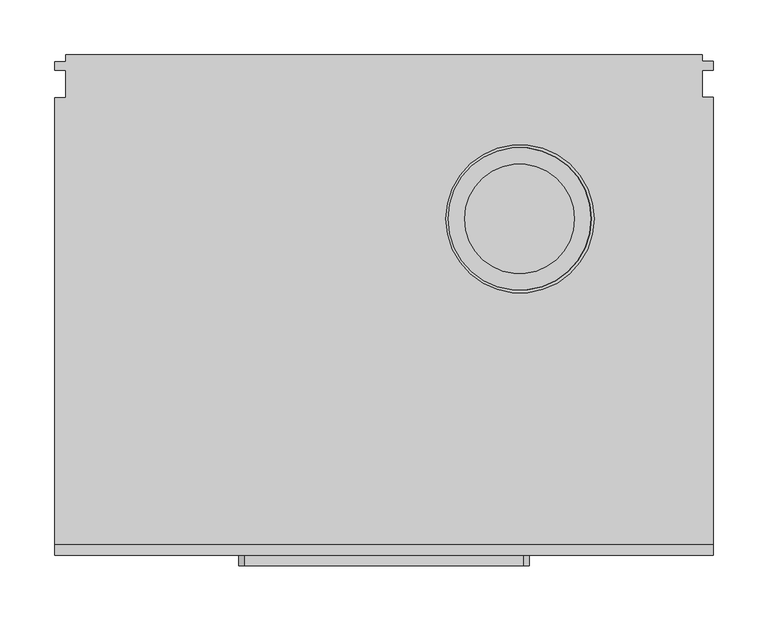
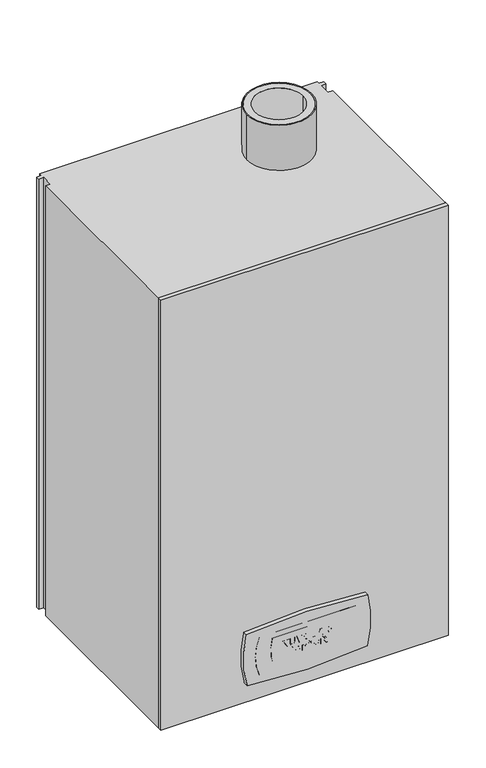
"""IFC4 building model written with IfcOpenShell, lengths in millimetres: proxy geometry, BAXI_ГазовыйКотел_Nuvola-3_Comfort_Fi : BAXI_Газовый котел_Nuvola-3_Comfort_240 Fi."""

from ifc_helpers import new_model, si_unit, point, frame, frame_2d, origin, origin_with_axes, place, context, project, spatial, polyline, circle_curve, trimmed, segment, composite_curve, outline, extrude, source, transform, mapped, element, save


def mechanical_equipment_10b0f234(model_context):
    return source(origin(), model_context, "Body", "SweptSolid", [
        extrude(outline(composite_curve([segment(trimmed(circle_curve(frame_2d((123.53125, -150.0)), 65.0), [point((58.53125, -150.0))], [point((188.53125, -150.0))], False, "CARTESIAN"), True, "CONTINUOUS"), segment(trimmed(circle_curve(frame_2d((123.53125, -150.0)), 65.0), [point((188.53125, -150.0))], [point((58.53125, -150.0))], False, "CARTESIAN"), True, "CONTINUOUS")], self_intersect=False), holes=[composite_curve([segment(trimmed(circle_curve(frame_2d((123.53125, -150.0)), 50.0), [point((73.53125, -150.0))], [point((173.53125, -150.0))], True, "CARTESIAN"), True, "CONTINUOUS"), segment(trimmed(circle_curve(frame_2d((123.53125, -150.0)), 50.0), [point((173.53125, -150.0))], [point((73.53125, -150.0))], True, "CARTESIAN"), True, "CONTINUOUS")], self_intersect=False)]), frame((0.0, 0.0, 950.0), z_axis=(0.0, 0.0, 1.0), x_axis=(1.0, 0.0, 0.0)), (0.0, 0.0, 1.0), 100.0),
        extrude(outline(composite_curve([segment(trimmed(circle_curve(frame_2d((124.0, -150.0)), 67.5), [point((56.5, -150.0))], [point((191.5, -150.0))], False, "CARTESIAN"), True, "CONTINUOUS"), segment(trimmed(circle_curve(frame_2d((124.0, -150.0)), 67.5), [point((191.5, -150.0))], [point((56.5, -150.0))], False, "CARTESIAN"), True, "CONTINUOUS")], self_intersect=False), holes=[composite_curve([segment(trimmed(circle_curve(frame_2d((124.0, -150.0)), 65.0), [point((59.0, -150.0))], [point((189.0, -150.0))], True, "CARTESIAN"), True, "CONTINUOUS"), segment(trimmed(circle_curve(frame_2d((124.0, -150.0)), 65.0), [point((189.0, -150.0))], [point((59.0, -150.0))], True, "CARTESIAN"), True, "CONTINUOUS")], self_intersect=False)]), frame((0.0, 0.0, 950.0), z_axis=(0.0, 0.0, 1.0), x_axis=(1.0, 0.0, 0.0)), (0.0, 0.0, 1.0), 100.0),
        extrude(outline(composite_curve([segment(trimmed(circle_curve(frame_2d((137.6, -150.0)), 10.0), [point((127.6, -150.0))], [point((147.6, -150.0))], False, "CARTESIAN"), True, "CONTINUOUS"), segment(trimmed(circle_curve(frame_2d((137.6, -150.0)), 10.0), [point((147.6, -150.0))], [point((127.6, -150.0))], False, "CARTESIAN"), True, "CONTINUOUS")], self_intersect=False)), origin_with_axes(), (0.0, 0.0, 1.0), 27.0),
        extrude(outline(composite_curve([segment(trimmed(circle_curve(frame_2d((237.6, -150.0)), 10.0), [point((227.6, -150.0))], [point((247.6, -150.0))], False, "CARTESIAN"), True, "CONTINUOUS"), segment(trimmed(circle_curve(frame_2d((237.6, -150.0)), 10.0), [point((247.6, -150.0))], [point((227.6, -150.0))], False, "CARTESIAN"), True, "CONTINUOUS")], self_intersect=False)), origin_with_axes(), (0.0, 0.0, 1.0), 27.0),
        extrude(outline(composite_curve([segment(trimmed(circle_curve(frame_2d((-62.4, -150.0)), 7.5), [point((-69.9, -150.0))], [point((-54.9, -150.0))], False, "CARTESIAN"), True, "CONTINUOUS"), segment(trimmed(circle_curve(frame_2d((-62.4, -150.0)), 7.5), [point((-54.9, -150.0))], [point((-69.9, -150.0))], False, "CARTESIAN"), True, "CONTINUOUS")], self_intersect=False)), origin_with_axes(), (0.0, 0.0, 1.0), 27.0),
        extrude(outline(composite_curve([segment(trimmed(circle_curve(frame_2d((-162.4, -150.0)), 7.5), [point((-169.9, -150.0))], [point((-154.9, -150.0))], False, "CARTESIAN"), True, "CONTINUOUS"), segment(trimmed(circle_curve(frame_2d((-162.4, -150.0)), 7.5), [point((-154.9, -150.0))], [point((-169.9, -150.0))], False, "CARTESIAN"), True, "CONTINUOUS")], self_intersect=False)), origin_with_axes(), (0.0, 0.0, 1.0), 27.0),
        extrude(outline(composite_curve([segment(trimmed(circle_curve(frame_2d((37.6, -150.0)), 10.0), [point((27.6, -150.0))], [point((47.6, -150.0))], False, "CARTESIAN"), True, "CONTINUOUS"), segment(trimmed(circle_curve(frame_2d((37.6, -150.0)), 10.0), [point((47.6, -150.0))], [point((27.6, -150.0))], False, "CARTESIAN"), True, "CONTINUOUS")], self_intersect=False)), origin_with_axes(), (0.0, 0.0, 1.0), 27.0),
        extrude(outline(polyline([(290.0, -0.5), (290.0, -6.3249142), (300.0, -6.3249142), (300.0, -14.3064522), (290.0, -14.3064522), (290.0, -38.999666), (300.0, -38.999666), (300.0, -446.5), (-300.0, -446.5), (-300.0, -39.3721844), (-290.0, -39.3721844), (-290.0, -14.3064522), (-300.0, -14.3064522), (-300.0, -6.9817422), (-290.0, -6.9817422), (-290.0, -0.5), (290.0, -0.5)])), origin_with_axes(), (0.0, 0.0, 1.0), 950.0),
        extrude(outline(composite_curve([segment(trimmed(circle_curve(frame_2d((1114.655629, 0.0)), 1078.3671711), [point((43.6229777, -125.5580169))], [point((43.6229777, 125.5580169))], False, "CARTESIAN"), True, "CONTINUOUS"), segment(trimmed(circle_curve(frame_2d((102.7699381, -106.3403159)), 239.322376), [point((43.6229777, 125.5580169))], [point((156.2143124, 126.9382698))], False, "CARTESIAN"), True, "CONTINUOUS"), segment(trimmed(circle_curve(frame_2d((-914.655629, 0.0)), 1078.3671711), [point((156.2143124, 126.9382698))], [point((156.2143124, -126.9382698))], False, "CARTESIAN"), True, "CONTINUOUS"), segment(trimmed(circle_curve(frame_2d((102.7699381, 106.3403159)), 239.322376), [point((156.2143124, -126.9382698))], [point((43.6229777, -125.5580169))], False, "CARTESIAN"), True, "CONTINUOUS")], self_intersect=False)), frame((0.0, -466.0, 0.0), z_axis=(0.0, 1.0, 0.0), x_axis=(0.0, 0.0, 1.0)), (0.0, 0.0, 1.0), 19.5),
        extrude(outline(polyline([(100.952917, -51.0317909), (100.952917, -48.1167641), (111.1023725, -48.1167641), (100.952917, -41.7932813), (100.952917, -38.6429268), (116.256808, -38.6429268), (116.256808, -41.5579536), (105.9555282, -41.5579536), (116.256808, -47.9763266), (116.256808, -51.0317909), (100.952917, -51.0317909)])), frame((0.0, -466.0, 0.0), z_axis=(0.0, 1.0, 0.0), x_axis=(0.0, 0.0, 1.0)), (0.0, 0.0, 1.0), 5.0),
        extrude(outline(polyline([(116.256808, -35.7278999), (108.1038423, -35.7278999), (104.224731, -35.4204557), (102.5280943, -34.5398746), (101.214814, -32.7217785), (100.7099981, -29.3474831), (101.1730623, -26.3584418), (102.4199195, -24.5308566), (104.3385993, -23.5933415), (108.2290974, -23.3390358), (116.256808, -23.3390358), (116.256808, -26.2540626), (107.8229673, -26.2540626), (103.9172868, -27.276979), (103.3821061, -29.4385776), (103.9495495, -31.6590083), (105.4507124, -32.687618), (108.0013609, -32.8128731), (116.256808, -32.8128731), (116.256808, -35.7278999)])), frame((0.0, -466.0, 0.0), z_axis=(0.0, 1.0, 0.0), x_axis=(0.0, 0.0, 1.0)), (0.0, 0.0, 1.0), 5.0),
        extrude(outline(polyline([(100.952917, -16.7232912), (100.952917, -13.4666597), (116.256808, -8.0351448), (116.256808, -11.0982003), (104.8396195, -14.9583336), (116.256808, -18.80708), (116.256808, -21.8815223), (100.952917, -16.7232912)])), frame((0.0, -466.0, 0.0), z_axis=(0.0, 1.0, 0.0), x_axis=(0.0, 0.0, 1.0)), (0.0, 0.0, 1.0), 5.0),
        extrude(outline(polyline([(108.5099723, -6.8205502), (102.7880934, -4.8430385), (100.7099981, 0.4859949), (102.7975825, 5.7770723), (108.5858845, 7.754584), (114.4064492, 5.7618899), (116.4997269, 0.4480389), (115.8962253, -2.7934103), (114.5203174, -4.7348637), (112.4270397, -6.1335452), (108.5099723, -6.8205502)]), holes=[polyline([(108.6162494, -3.9055234), (112.5295211, -2.6985201), (113.827619, 0.4821993), (112.5447035, 3.6477363), (108.658001, 4.8395572), (104.7010798, 3.6154736), (103.3821061, 0.4821993), (104.7105688, -2.6662574), (108.6162494, -3.9055234)])]), frame((0.0, -466.0, 0.0), z_axis=(0.0, 1.0, 0.0), x_axis=(0.0, 0.0, 1.0)), (0.0, 0.0, 1.0), 5.0),
        extrude(outline(polyline([(100.952917, 10.1837731), (100.952917, 20.8722049), (103.625025, 20.8722049), (103.625025, 13.0987999), (116.256808, 13.0987999), (116.256808, 10.1837731), (100.952917, 10.1837731)])), frame((0.0, -466.0, 0.0), z_axis=(0.0, 1.0, 0.0), x_axis=(0.0, 0.0, 1.0)), (0.0, 0.0, 1.0), 5.0),
        extrude(outline(polyline([(100.952917, 35.933177), (116.256808, 30.2929037), (116.256808, 27.1880964), (100.952917, 21.6009616), (100.952917, 24.7057689), (104.3537817, 25.8899985), (104.3537817, 31.6707093), (100.952917, 32.8701214), (100.952917, 35.933177)]), holes=[polyline([(107.0258897, 30.7369898), (107.0258897, 26.8237181), (112.6130245, 28.7670693), (107.0258897, 30.7369898)])]), frame((0.0, -466.0, 0.0), z_axis=(0.0, 1.0, 0.0), x_axis=(0.0, 0.0, 1.0)), (0.0, 0.0, 1.0), 5.0),
        extrude(outline(polyline([(36.9048526, -461.0), (42.7349063, -461.0), (42.7349063, -466.0), (36.9048526, -466.0), (36.9048526, -461.0)])), frame((0.0, 0.0, 105.0825384), z_axis=(0.0, 0.0, 1.0), x_axis=(1.0, 0.0, 0.0)), (0.0, 0.0, 1.0), 2.672108),
        extrude(outline(polyline([(105.2305671, 43.9495008), (101.9606509, 45.4658462), (100.7099981, 48.758536), (102.1162709, 52.2599843), (105.5152377, 53.666257), (107.8628212, 52.872975), (109.113474, 50.7550258), (112.3283539, 52.9375003), (114.8790024, 51.9202774), (116.256808, 48.6484634), (115.7595834, 46.4944559), (114.3950624, 44.9951908), (112.0778438, 44.1924198), (110.1838354, 48.0905091), (107.3940636, 50.2407209), (105.7581566, 50.7512302), (103.943856, 47.5211679), (105.5683762, 46.8645277), (105.2305671, 43.9495008)])), frame((0.0, -466.0, 0.0), z_axis=(0.0, 1.0, 0.0), x_axis=(0.0, 0.0, 1.0)), (0.0, 0.0, 1.0), 5.0),
        extrude(outline(polyline([(87.8962683, -28.5617922), (85.4993419, -29.9035396), (84.7383225, -32.1334592), (85.9301434, -34.9934498), (89.9307141, -36.0922783), (93.7585847, -34.9592893), (94.9409165, -32.0082042), (94.2899698, -29.7706933), (92.5117275, -28.5617922), (92.9975653, -25.6467654), (95.9012053, -27.2219426), (97.6130245, -31.807037), (95.5368269, -37.0241), (89.7067732, -39.0073051), (84.1120472, -37.0411802), (82.0662146, -32.019591), (83.2637288, -27.9431081), (86.9245927, -25.6467654), (87.8962683, -28.5617922)])), frame((0.0, -466.0, 0.0), z_axis=(0.0, 1.0, 0.0), x_axis=(0.0, 0.0, 1.0)), (0.0, 0.0, 1.0), 5.0),
        extrude(outline(polyline([(87.8127649, -23.946333), (84.5485421, -23.2270653), (82.5159941, -21.1280942), (81.8232957, -18.2263519), (83.4876697, -14.1498691), (87.6837142, -12.5291445), (91.8399049, -14.1327888), (93.4834031, -18.2491256), (92.758442, -21.1907217), (90.657573, -23.2270653), (87.8127649, -23.946333)]), holes=[polyline([(87.6533494, -21.0313062), (90.35772, -20.2247395), (91.2971329, -18.2339432), (90.35772, -16.2469424), (87.676123, -15.4441714), (84.9489787, -16.2469424), (84.0095658, -18.2339432), (84.9489787, -20.2247395), (87.6533494, -21.0313062)])]), frame((0.0, -466.0, 0.0), z_axis=(0.0, 1.0, 0.0), x_axis=(0.0, 0.0, 1.0)), (0.0, 0.0, 1.0), 5.0),
        extrude(outline(polyline([(93.2404842, -10.5857933), (82.0662146, -10.5857933), (82.0662146, -7.6707664), (87.5356855, -7.6707664), (90.3539244, -4.1788072), (88.2340774, -4.0269828), (82.0662146, -4.0269828), (82.0662146, -1.111956), (87.4711602, -1.111956), (90.6594708, 2.2357702), (88.4997699, 2.5318276), (82.0662146, 2.5318276), (82.0662146, 5.4468544), (89.205753, 5.4468544), (91.5172782, 5.150797), (92.9842806, 3.9058376), (93.4834031, 1.8751874), (93.0563972, 0.0969451), (91.7639927, -1.4535607), (93.0563972, -2.6662574), (93.4834031, -4.4103392), (93.2404842, -7.6707664), (93.2404842, -10.5857933)])), frame((0.0, -466.0, 0.0), z_axis=(0.0, 1.0, 0.0), x_axis=(0.0, 0.0, 1.0)), (0.0, 0.0, 1.0), 5.0),
        extrude(outline(polyline([(93.2404842, 7.1472868), (91.054214, 8.6048002), (82.0662146, 8.6048002), (82.0662146, 11.5198271), (91.054214, 11.5198271), (91.054214, 13.7060972), (93.2404842, 13.7060972), (95.2635432, 14.0704756), (97.2486461, 14.4348539), (97.6130245, 11.9980737), (96.0947813, 8.9008576), (93.2404842, 7.1472868)])), frame((0.0, -466.0, 0.0), z_axis=(0.0, 1.0, 0.0), x_axis=(0.0, 0.0, 1.0)), (0.0, 0.0, 1.0), 5.0),
        extrude(outline(polyline([(87.8127649, 14.6777728), (84.5485421, 15.3970405), (82.5159941, 17.4960117), (81.8232957, 20.3977539), (83.4876697, 24.4742368), (87.6837142, 26.0949613), (91.8399049, 24.491317), (93.4834031, 20.3749803), (92.758442, 17.4333842), (90.657573, 15.3970405), (87.8127649, 14.6777728)]), holes=[polyline([(87.6533494, 17.5927997), (90.35772, 18.3993664), (91.2971329, 20.3901627), (90.35772, 22.3771634), (87.676123, 23.1799345), (84.9489787, 22.3771634), (84.0095658, 20.3901627), (84.9489787, 18.3993664), (87.6533494, 17.5927997)])]), frame((0.0, -466.0, 0.0), z_axis=(0.0, 1.0, 0.0), x_axis=(0.0, 0.0, 1.0)), (0.0, 0.0, 1.0), 5.0),
        extrude(outline(polyline([(82.0662146, 31.1962583), (85.4101451, 31.1962583), (90.0939252, 34.4756636), (92.8685146, 35.3258797), (93.136105, 32.36151), (93.2404842, 31.1962583), (93.2404842, 28.2812315), (82.0662146, 28.2812315), (82.0662146, 31.1962583)])), frame((0.0, -466.0, 0.0), z_axis=(0.0, 1.0, 0.0), x_axis=(0.0, 0.0, 1.0)), (0.0, 0.0, 1.0), 5.0),
        extrude(outline(polyline([(93.2404842, 41.8846902), (93.2404842, 39.69842), (97.1271867, 39.69842), (95.4267543, 36.7833932), (93.2404842, 35.3258797), (91.054214, 36.7833932), (86.0971501, 36.7833932), (81.8232957, 39.7401717), (82.2180389, 42.1276091), (84.5656224, 39.7648432), (86.2603613, 39.69842), (91.054214, 39.69842), (91.054214, 41.8846902), (93.2404842, 41.8846902)])), frame((0.0, -466.0, 0.0), z_axis=(0.0, 1.0, 0.0), x_axis=(0.0, 0.0, 1.0)), (0.0, 0.0, 1.0), 5.0),
        extrude(outline(composite_curve([segment(polyline([(300.0, -446.0), (300.0, -456.5071393)]), True, "CONTINUOUS"), segment(trimmed(circle_curve(frame_2d((0.0, 8312.6346078)), 8774.2718776), [point((300.0, -456.5071393))], [point((-300.0, -456.5071393))], False, "CARTESIAN"), True, "CONTINUOUS"), segment(polyline([(-300.0, -456.5071393), (-300.0, -446.0), (300.0, -446.0)]), True, "CONTINUOUS")], self_intersect=False)), origin_with_axes(), (0.0, 0.0, 1.0), 950.0),
        extrude(outline(composite_curve([segment(trimmed(circle_curve(frame_2d((1107.5898257, 0.0)), 1040.7862515), [point((69.1863212, -70.3859571))], [point((69.1863212, 70.3859571))], False, "CARTESIAN"), True, "CONTINUOUS"), segment(trimmed(circle_curve(frame_2d((104.8870993, -34.734829)), 111.0176798), [point((69.1863212, 70.3859571))], [point((130.6148305, 73.2605833))], False, "CARTESIAN"), True, "CONTINUOUS"), segment(trimmed(circle_curve(frame_2d((-907.5898257, 0.0)), 1040.7862515), [point((130.6148305, 73.2605833))], [point((130.6148305, -73.2605833))], False, "CARTESIAN"), True, "CONTINUOUS"), segment(trimmed(circle_curve(frame_2d((104.8870993, 34.734829)), 111.0176798), [point((130.6148305, -73.2605833))], [point((69.1863212, -70.3859571))], False, "CARTESIAN"), True, "CONTINUOUS")], self_intersect=False)), frame((0.0, -466.0, 0.0), z_axis=(0.0, 1.0, 0.0), x_axis=(0.0, 0.0, 1.0)), (0.0, 0.0, 1.0), 19.5),
        extrude(outline(composite_curve([segment(trimmed(circle_curve(frame_2d((-951.1535613, -1.4823985)), 1097.5486285), [point((141.6671557, 100.2814086))], [point((141.9497166, -100.164797))], False, "CARTESIAN"), True, "CONTINUOUS"), segment(trimmed(circle_curve(frame_2d((100.0, 1.0826685)), 109.5939232), [point((141.9497166, -100.164797))], [point((58.0502834, -100.164797))], False, "CARTESIAN"), True, "CONTINUOUS"), segment(trimmed(circle_curve(frame_2d((1151.1535613, -1.4823985)), 1097.5486285), [point((58.0502834, -100.164797))], [point((58.3328443, 100.2814086))], False, "CARTESIAN"), True, "CONTINUOUS"), segment(trimmed(circle_curve(frame_2d((100.0, -1.0826685)), 109.5939232), [point((58.3328443, 100.2814086))], [point((141.6671557, 100.2814086))], False, "CARTESIAN"), True, "CONTINUOUS")], self_intersect=False)), frame((0.0, -466.0, 0.0), z_axis=(0.0, 1.0, 0.0), x_axis=(0.0, 0.0, 1.0)), (0.0, 0.0, 1.0), 19.5),
    ])


if __name__ == "__main__":
    model = new_model("IFC4")
    model_context = context("Model", 3, world=origin())
    ifc_project = project(units=[si_unit("LENGTHUNIT", "METRE", prefix="MILLI")], contexts=[model_context])
    site = spatial("IfcSite", under=ifc_project)
    building = spatial("IfcBuilding", under=site)
    placement = place(None, origin())
    mechanical_equipment_shape = mechanical_equipment_10b0f234(model_context)
    element("IfcBuildingElementProxy", 1, Name="BAXI_ГазовыйКотел_Nuvola-3_Comfort_Fi : BAXI_Газовый котел_Nuvola-3_Comfort_240 Fi", ObjectType="BAXI_ГазовыйКотел_Nuvola-3_Comfort_Fi : BAXI_Газовый котел_Nuvola-3_Comfort_240 Fi", at=placement, inside=building, context=model_context, shape_type="MappedRepresentation", body=[
        mapped(mechanical_equipment_shape, transform((0.0, 0.0, 0.0), x_axis=(1.0, 0.0, 0.0), y_axis=(0.0, 1.0, 0.0), z_axis=(0.0, 0.0, 1.0))),
    ])
    save(model, "model.ifc")
